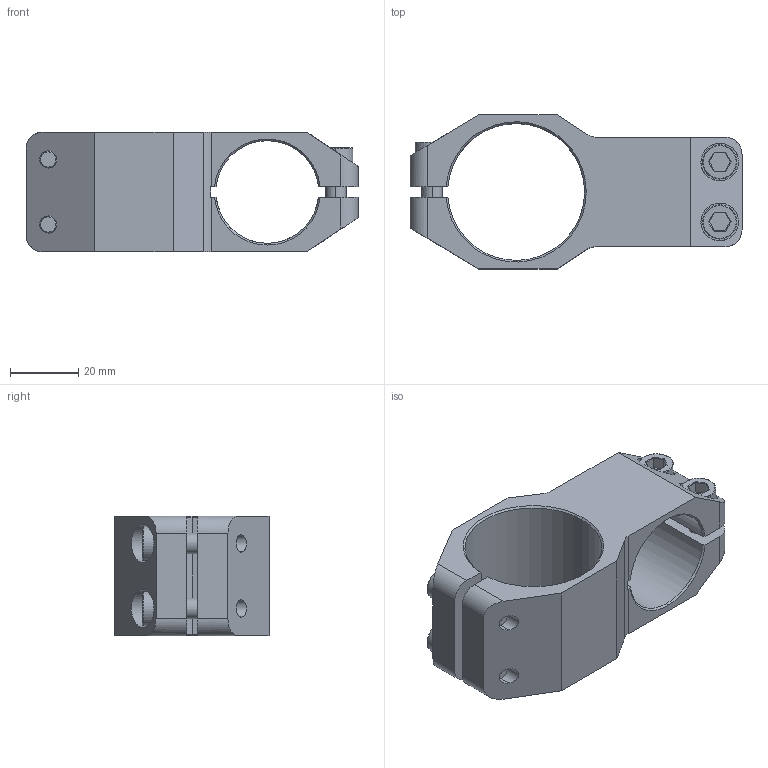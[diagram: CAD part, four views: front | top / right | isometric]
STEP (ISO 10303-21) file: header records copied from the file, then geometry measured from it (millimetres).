
FILE_DESCRIPTION (( 'STEP AP203' ), '1' );
FILE_NAME ('SMBT-4030T.STEP', '2024-03-19T02:40:52', ( '微软用户' ), ( '微软中国' ), 'SwSTEP 2.0', 'SolidWorks 2018', '' );
FILE_SCHEMA (( 'CONFIG_CONTROL_DESIGN' ));
Length unit declared in the file: millimetre
Products named in the file (4): SMBT-4030T; SMBT-4030; PTC-M6L20; PTC-M6L16
Assembly tree (5 placements, depth 2):
  SMBT-4030T
    SMBT-4030
    PTC-M6L20  x2
    PTC-M6L16  x2
Bounding box: 97 x 45 x 35 mm (x, y, z)
Volume: 47713.3 mm3; surface area: 23859.9 mm2
Topology: 5 solids, 5 shells, 181 faces, 427 edges, 268 vertices
Faces by surface type: plane 93, cylinder 55, cone 25, torus 8
Entity records: 4327 total; most frequent: CARTESIAN_POINT 768, DIRECTION 657, ORIENTED_EDGE 638, EDGE_CURVE 319, AXIS2_PLACEMENT_3D 237, VERTEX_POINT 204, LINE 183, VECTOR 183
